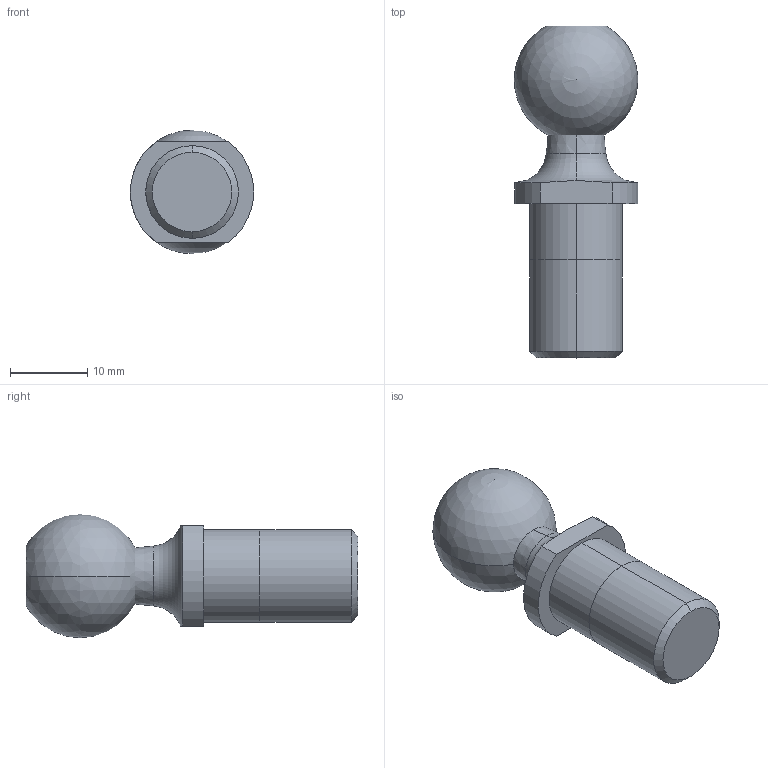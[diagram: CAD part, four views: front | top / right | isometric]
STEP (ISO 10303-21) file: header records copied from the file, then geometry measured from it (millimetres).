
FILE_DESCRIPTION (( 'STEP AP203' ), '1' );
FILE_NAME ('65550.W0012.step', '2014-02-03T10:41:13', ( 'User' ), ( '' ), 'SwSTEP 2.0', 'SolidWorks 2009', '' );
FILE_SCHEMA (( 'CONFIG_CONTROL_DESIGN' ));
Length unit declared in the file: millimetre
Products named in the file (1): 65550.W0012
Bounding box: 15.98 x 43 x 16 mm (x, y, z)
Volume: 5236.9 mm3; surface area: 2056.4 mm2
Topology: 1 solids, 1 shells, 20 faces, 49 edges, 31 vertices
Faces by surface type: cylinder 6, plane 6, cone 4, sphere 2, torus 2
Entity records: 671 total; most frequent: CARTESIAN_POINT 133, DIRECTION 108, ORIENTED_EDGE 88, AXIS2_PLACEMENT_3D 47, EDGE_CURVE 44, VERTEX_POINT 28, CIRCLE 26, EDGE_LOOP 22
